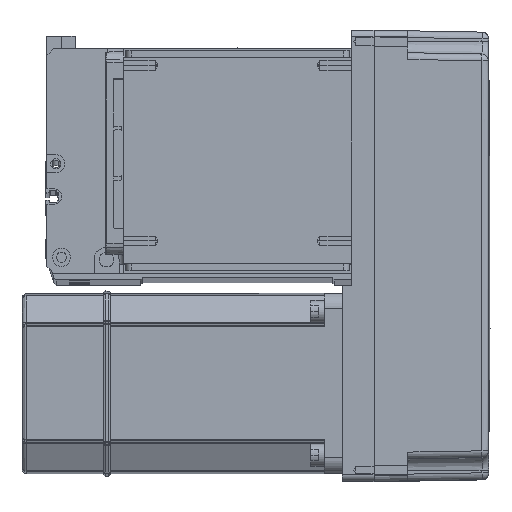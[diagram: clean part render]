
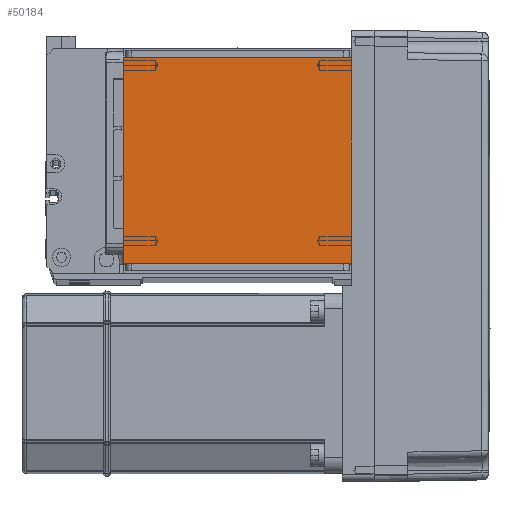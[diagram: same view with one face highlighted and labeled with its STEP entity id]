
A CAD part, top view. The second image highlights one B-rep face of the part: STEP entity #50184.
In plain terms, the highlighted planar face has unit normal (0, 0, 1).
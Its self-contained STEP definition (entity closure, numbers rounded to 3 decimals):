
#215 = LINE ( 'NONE', #19265, #53422 ) ;
#3099 = VECTOR ( 'NONE', #51062, 1000. ) ;
#3278 = CARTESIAN_POINT ( 'NONE',  ( 0., 0., 115. ) ) ;
#5187 = VECTOR ( 'NONE', #19134, 1000. ) ;
#7041 = CARTESIAN_POINT ( 'NONE',  ( 50.5, 20., 115. ) ) ;
#8694 = LINE ( 'NONE', #37672, #5187 ) ;
#10005 = ORIENTED_EDGE ( 'NONE', *, *, #49123, .T. ) ;
#10479 = DIRECTION ( 'NONE',  ( 1., 0., 0. ) ) ;
#14320 = ORIENTED_EDGE ( 'NONE', *, *, #24724, .T. ) ;
#16668 = VERTEX_POINT ( 'NONE', #45648 ) ;
#17318 = LINE ( 'NONE', #37476, #43236 ) ;
#19134 = DIRECTION ( 'NONE',  ( 0., -1., 0. ) ) ;
#19265 = CARTESIAN_POINT ( 'NONE',  ( 50.5, 122., 115. ) ) ;
#19677 = ORIENTED_EDGE ( 'NONE', *, *, #23199, .F. ) ;
#20029 = DIRECTION ( 'NONE',  ( 0., 1., 0. ) ) ;
#22111 = DIRECTION ( 'NONE',  ( 1., 0., 0. ) ) ;
#22148 = AXIS2_PLACEMENT_3D ( 'NONE', #3278, #30967, #22111 ) ;
#23199 = EDGE_CURVE ( 'NONE', #55602, #16668, #23218, .T. ) ;
#23218 = LINE ( 'NONE', #41605, #3099 ) ;
#24714 = EDGE_CURVE ( 'NONE', #53185, #53904, #17318, .T. ) ;
#24724 = EDGE_CURVE ( 'NONE', #53185, #16668, #8694, .T. ) ;
#26743 = PLANE ( 'NONE',  #22148 ) ;
#30967 = DIRECTION ( 'NONE',  ( 0., 0., 1. ) ) ;
#37476 = CARTESIAN_POINT ( 'NONE',  ( -70.004, 111.5, 115. ) ) ;
#37672 = CARTESIAN_POINT ( 'NONE',  ( -50.5, 122., 115. ) ) ;
#40954 = EDGE_LOOP ( 'NONE', ( #42055, #14320, #19677, #10005 ) ) ;
#41605 = CARTESIAN_POINT ( 'NONE',  ( -70.004, 20., 115. ) ) ;
#42055 = ORIENTED_EDGE ( 'NONE', *, *, #24714, .F. ) ;
#43236 = VECTOR ( 'NONE', #10479, 1000. ) ;
#45648 = CARTESIAN_POINT ( 'NONE',  ( -50.5, 20., 115. ) ) ;
#49123 = EDGE_CURVE ( 'NONE', #55602, #53904, #215, .T. ) ;
#49601 = CARTESIAN_POINT ( 'NONE',  ( 50.5, 111.5, 115. ) ) ;
#50184 = ADVANCED_FACE ( 'NONE', ( #55526 ), #26743, .T. ) ;
#51062 = DIRECTION ( 'NONE',  ( -1., 0., 0. ) ) ;
#53185 = VERTEX_POINT ( 'NONE', #56908 ) ;
#53422 = VECTOR ( 'NONE', #20029, 1000. ) ;
#53904 = VERTEX_POINT ( 'NONE', #49601 ) ;
#55526 = FACE_OUTER_BOUND ( 'NONE', #40954, .T. ) ;
#55602 = VERTEX_POINT ( 'NONE', #7041 ) ;
#56908 = CARTESIAN_POINT ( 'NONE',  ( -50.5, 111.5, 115. ) ) ;
